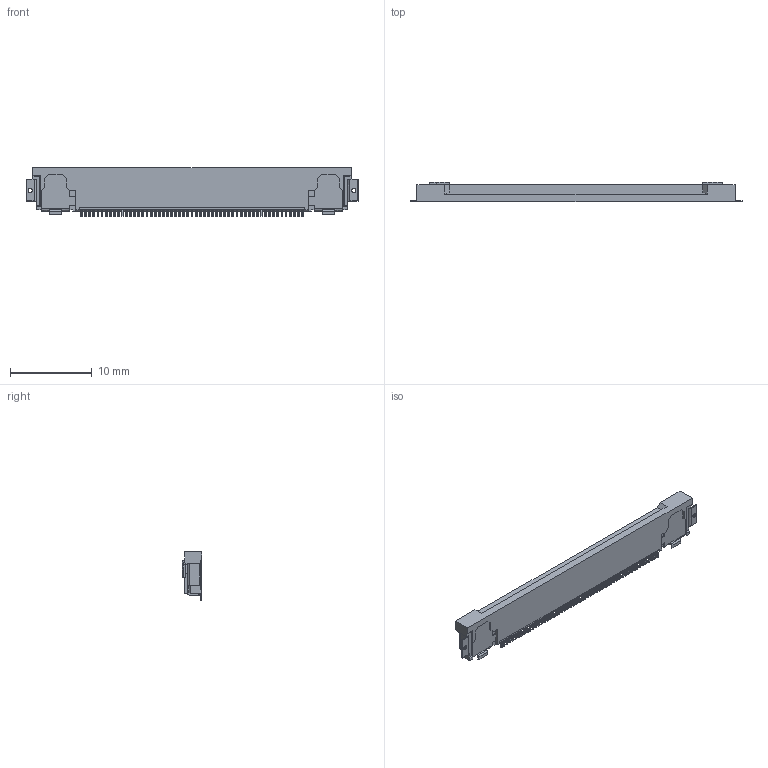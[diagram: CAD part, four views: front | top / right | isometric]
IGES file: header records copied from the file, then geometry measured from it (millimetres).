
Start section: SolidWorks IGES file using analytic representation for surfaces
Global section: file name: C:\3dworks\EVAFLEX5-SE-deguchi\22P,55P捛壛110916\3D僨乕僞\20526-055E-01C ASSY IGES R4 ALL.IGS; native system: SolidWorks 2011; preprocessor: SolidWorks 2011; author: kaihatsu-3dcad-3; date: 111114.130136; units: millimetre
Bounding box: 40.6 x 2.4 x 5.9 mm (x, y, z)
Surface area: 659.7 mm2 (no closed solid volume)
Topology: 0 solids, 0 shells, 955 faces, 5729 edges, 5729 vertices
Faces by surface type: bspline 686, revolution 269
